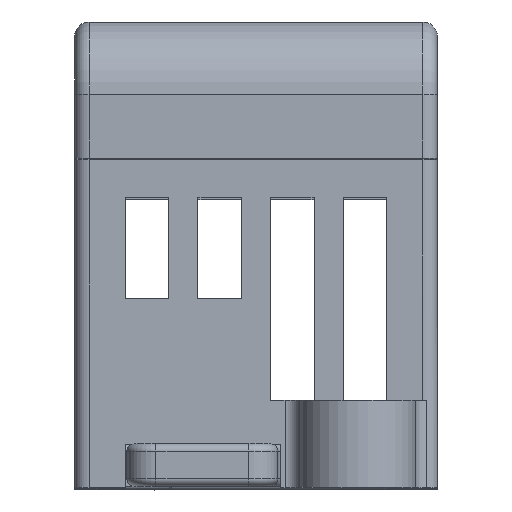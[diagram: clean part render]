
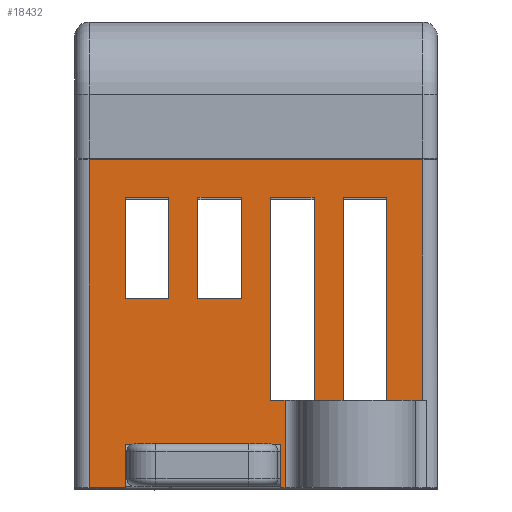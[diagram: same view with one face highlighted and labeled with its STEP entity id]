
A CAD part, top view. The second image highlights one B-rep face of the part: STEP entity #18432.
In plain terms, the highlighted planar face has unit normal (0, 0, 1).
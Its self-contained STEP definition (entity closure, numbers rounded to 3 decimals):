
#9951=DIRECTION('',(1.,0.,0.));
#9952=VECTOR('',#9951,2.5);
#9953=CARTESIAN_POINT('',(-11.5,0.,45.));
#9954=LINE('',#9953,#9952);
#10140=DIRECTION('',(0.,-1.,0.));
#10141=VECTOR('',#10140,14.);
#10142=CARTESIAN_POINT('',(1.,20.,45.));
#10143=LINE('',#10142,#10141);
#10147=DIRECTION('',(1.,0.,0.));
#10148=VECTOR('',#10147,1.);
#10149=CARTESIAN_POINT('',(1.,6.,45.));
#10150=LINE('',#10149,#10148);
#10154=DIRECTION('',(0.,-1.,0.));
#10155=VECTOR('',#10154,6.);
#10156=CARTESIAN_POINT('',(2.,6.,45.));
#10157=LINE('',#10156,#10155);
#10161=DIRECTION('',(-1.,0.,0.));
#10162=VECTOR('',#10161,0.3);
#10163=CARTESIAN_POINT('',(2.,0.,45.));
#10164=LINE('',#10163,#10162);
#10168=DIRECTION('',(1.,0.,0.));
#10169=VECTOR('',#10168,10.7);
#10170=CARTESIAN_POINT('',(-9.,3.,45.));
#10171=LINE('',#10170,#10169);
#10175=DIRECTION('',(0.,1.,0.));
#10176=VECTOR('',#10175,3.);
#10177=CARTESIAN_POINT('',(-9.,0.,45.));
#10178=LINE('',#10177,#10176);
#10182=DIRECTION('',(1.,0.,0.));
#10183=VECTOR('',#10182,23.);
#10184=CARTESIAN_POINT('',(-11.5,22.6,45.));
#10185=LINE('',#10184,#10183);
#10189=DIRECTION('',(0.,1.,0.));
#10190=VECTOR('',#10189,14.);
#10191=CARTESIAN_POINT('',(9.,6.,45.));
#10192=LINE('',#10191,#10190);
#10196=DIRECTION('',(-1.,0.,0.));
#10197=VECTOR('',#10196,3.);
#10198=CARTESIAN_POINT('',(9.,20.,45.));
#10199=LINE('',#10198,#10197);
#10203=DIRECTION('',(0.,-1.,0.));
#10204=VECTOR('',#10203,14.);
#10205=CARTESIAN_POINT('',(6.,20.,45.));
#10206=LINE('',#10205,#10204);
#10210=DIRECTION('',(0.,1.,0.));
#10211=VECTOR('',#10210,14.);
#10212=CARTESIAN_POINT('',(4.,6.,45.));
#10213=LINE('',#10212,#10211);
#10217=DIRECTION('',(-1.,0.,0.));
#10218=VECTOR('',#10217,3.);
#10219=CARTESIAN_POINT('',(4.,20.,45.));
#10220=LINE('',#10219,#10218);
#10224=DIRECTION('',(-1.,0.,0.));
#10225=VECTOR('',#10224,3.);
#10226=CARTESIAN_POINT('',(-1.,20.,45.));
#10227=LINE('',#10226,#10225);
#10231=DIRECTION('',(0.,-1.,0.));
#10232=VECTOR('',#10231,7.);
#10233=CARTESIAN_POINT('',(-4.,20.,45.));
#10234=LINE('',#10233,#10232);
#10238=DIRECTION('',(1.,0.,0.));
#10239=VECTOR('',#10238,3.);
#10240=CARTESIAN_POINT('',(-4.,13.,45.));
#10241=LINE('',#10240,#10239);
#10245=DIRECTION('',(0.,1.,0.));
#10246=VECTOR('',#10245,7.);
#10247=CARTESIAN_POINT('',(-1.,13.,45.));
#10248=LINE('',#10247,#10246);
#10252=DIRECTION('',(-1.,0.,0.));
#10253=VECTOR('',#10252,3.);
#10254=CARTESIAN_POINT('',(-6.,20.,45.));
#10255=LINE('',#10254,#10253);
#10259=DIRECTION('',(0.,-1.,0.));
#10260=VECTOR('',#10259,7.);
#10261=CARTESIAN_POINT('',(-9.,20.,45.));
#10262=LINE('',#10261,#10260);
#10266=DIRECTION('',(1.,0.,0.));
#10267=VECTOR('',#10266,3.);
#10268=CARTESIAN_POINT('',(-9.,13.,45.));
#10269=LINE('',#10268,#10267);
#10273=DIRECTION('',(0.,1.,0.));
#10274=VECTOR('',#10273,7.);
#10275=CARTESIAN_POINT('',(-6.,13.,45.));
#10276=LINE('',#10275,#10274);
#10397=DIRECTION('',(1.,0.,0.));
#10398=VECTOR('',#10397,2.);
#10399=CARTESIAN_POINT('',(4.,6.,45.));
#10400=LINE('',#10399,#10398);
#10411=DIRECTION('',(1.,0.,0.));
#10412=VECTOR('',#10411,2.5);
#10413=CARTESIAN_POINT('',(9.,6.,45.));
#10414=LINE('',#10413,#10412);
#15108=DIRECTION('',(0.,1.,0.));
#15109=VECTOR('',#15108,3.);
#15110=CARTESIAN_POINT('',(1.7,0.,45.));
#15111=LINE('',#15110,#15109);
#16627=DIRECTION('',(0.,-1.,0.));
#16628=VECTOR('',#16627,16.6);
#16629=CARTESIAN_POINT('',(11.5,22.6,45.));
#16630=LINE('',#16629,#16628);
#16904=DIRECTION('',(0.,-1.,0.));
#16905=VECTOR('',#16904,22.6);
#16906=CARTESIAN_POINT('',(-11.5,22.6,45.));
#16907=LINE('',#16906,#16905);
#16962=CARTESIAN_POINT('',(-11.5,0.,45.));
#16964=VERTEX_POINT('',#16962);
#16982=CARTESIAN_POINT('',(-9.,0.,45.));
#16983=VERTEX_POINT('',#16982);
#17254=CARTESIAN_POINT('',(-11.5,22.6,45.));
#17255=CARTESIAN_POINT('',(11.5,22.6,45.));
#17256=VERTEX_POINT('',#17254);
#17257=VERTEX_POINT('',#17255);
#17753=CARTESIAN_POINT('',(11.5,6.,45.));
#17754=VERTEX_POINT('',#17753);
#17757=CARTESIAN_POINT('',(2.,0.,45.));
#17758=VERTEX_POINT('',#17757);
#17763=CARTESIAN_POINT('',(1.7,0.,45.));
#17764=CARTESIAN_POINT('',(1.7,3.,45.));
#17765=VERTEX_POINT('',#17763);
#17766=VERTEX_POINT('',#17764);
#17767=CARTESIAN_POINT('',(-9.,3.,45.));
#17768=VERTEX_POINT('',#17767);
#18050=CARTESIAN_POINT('',(1.,20.,45.));
#18051=CARTESIAN_POINT('',(1.,6.,45.));
#18052=VERTEX_POINT('',#18050);
#18053=VERTEX_POINT('',#18051);
#18054=CARTESIAN_POINT('',(2.,6.,45.));
#18055=VERTEX_POINT('',#18054);
#18056=CARTESIAN_POINT('',(4.,6.,45.));
#18057=CARTESIAN_POINT('',(4.,20.,45.));
#18058=VERTEX_POINT('',#18056);
#18059=VERTEX_POINT('',#18057);
#18060=CARTESIAN_POINT('',(6.,20.,45.));
#18061=CARTESIAN_POINT('',(6.,6.,45.));
#18062=VERTEX_POINT('',#18060);
#18063=VERTEX_POINT('',#18061);
#18064=CARTESIAN_POINT('',(9.,6.,45.));
#18065=CARTESIAN_POINT('',(9.,20.,45.));
#18066=VERTEX_POINT('',#18064);
#18067=VERTEX_POINT('',#18065);
#18068=CARTESIAN_POINT('',(-1.,20.,45.));
#18069=CARTESIAN_POINT('',(-4.,20.,45.));
#18070=VERTEX_POINT('',#18068);
#18071=VERTEX_POINT('',#18069);
#18072=CARTESIAN_POINT('',(-4.,13.,45.));
#18073=VERTEX_POINT('',#18072);
#18074=CARTESIAN_POINT('',(-1.,13.,45.));
#18075=VERTEX_POINT('',#18074);
#18076=CARTESIAN_POINT('',(-6.,20.,45.));
#18077=CARTESIAN_POINT('',(-9.,20.,45.));
#18078=VERTEX_POINT('',#18076);
#18079=VERTEX_POINT('',#18077);
#18080=CARTESIAN_POINT('',(-9.,13.,45.));
#18081=VERTEX_POINT('',#18080);
#18082=CARTESIAN_POINT('',(-6.,13.,45.));
#18083=VERTEX_POINT('',#18082);
#18372=CARTESIAN_POINT('',(-12.5,0.,45.));
#18373=DIRECTION('',(0.,0.,1.));
#18374=DIRECTION('',(1.,0.,0.));
#18375=AXIS2_PLACEMENT_3D('',#18372,#18373,#18374);
#18376=PLANE('',#18375);
#18378=ORIENTED_EDGE('',*,*,#18377,.T.);
#18380=ORIENTED_EDGE('',*,*,#18379,.T.);
#18382=ORIENTED_EDGE('',*,*,#18381,.T.);
#18383=ORIENTED_EDGE('',*,*,#18289,.T.);
#18385=ORIENTED_EDGE('',*,*,#18384,.T.);
#18387=ORIENTED_EDGE('',*,*,#18386,.F.);
#18388=ORIENTED_EDGE('',*,*,#18361,.F.);
#18389=ORIENTED_EDGE('',*,*,#18203,.F.);
#18391=ORIENTED_EDGE('',*,*,#18390,.F.);
#18393=ORIENTED_EDGE('',*,*,#18392,.T.);
#18395=ORIENTED_EDGE('',*,*,#18394,.T.);
#18397=ORIENTED_EDGE('',*,*,#18396,.F.);
#18399=ORIENTED_EDGE('',*,*,#18398,.T.);
#18401=ORIENTED_EDGE('',*,*,#18400,.T.);
#18403=ORIENTED_EDGE('',*,*,#18402,.T.);
#18405=ORIENTED_EDGE('',*,*,#18404,.F.);
#18407=ORIENTED_EDGE('',*,*,#18406,.T.);
#18409=ORIENTED_EDGE('',*,*,#18408,.T.);
#18410=EDGE_LOOP('',(#18378,#18380,#18382,#18383,#18385,#18387,#18388,#18389,
#18391,#18393,#18395,#18397,#18399,#18401,#18403,#18405,#18407,#18409));
#18411=FACE_OUTER_BOUND('',#18410,.F.);
#18413=ORIENTED_EDGE('',*,*,#18412,.T.);
#18415=ORIENTED_EDGE('',*,*,#18414,.T.);
#18417=ORIENTED_EDGE('',*,*,#18416,.T.);
#18419=ORIENTED_EDGE('',*,*,#18418,.T.);
#18420=EDGE_LOOP('',(#18413,#18415,#18417,#18419));
#18421=FACE_BOUND('',#18420,.F.);
#18423=ORIENTED_EDGE('',*,*,#18422,.T.);
#18425=ORIENTED_EDGE('',*,*,#18424,.T.);
#18427=ORIENTED_EDGE('',*,*,#18426,.T.);
#18429=ORIENTED_EDGE('',*,*,#18428,.T.);
#18430=EDGE_LOOP('',(#18423,#18425,#18427,#18429));
#18431=FACE_BOUND('',#18430,.F.);
#18432=ADVANCED_FACE('',(#18411,#18421,#18431),#18376,.T.);
#18203=EDGE_CURVE('',#16964,#16983,#9954,.T.);
#18289=EDGE_CURVE('',#17758,#17765,#10164,.T.);
#18361=EDGE_CURVE('',#16983,#17768,#10178,.T.);
#18377=EDGE_CURVE('',#18052,#18053,#10143,.T.);
#18379=EDGE_CURVE('',#18053,#18055,#10150,.T.);
#18381=EDGE_CURVE('',#18055,#17758,#10157,.T.);
#18384=EDGE_CURVE('',#17765,#17766,#15111,.T.);
#18386=EDGE_CURVE('',#17768,#17766,#10171,.T.);
#18390=EDGE_CURVE('',#17256,#16964,#16907,.T.);
#18392=EDGE_CURVE('',#17256,#17257,#10185,.T.);
#18394=EDGE_CURVE('',#17257,#17754,#16630,.T.);
#18396=EDGE_CURVE('',#18066,#17754,#10414,.T.);
#18398=EDGE_CURVE('',#18066,#18067,#10192,.T.);
#18400=EDGE_CURVE('',#18067,#18062,#10199,.T.);
#18402=EDGE_CURVE('',#18062,#18063,#10206,.T.);
#18404=EDGE_CURVE('',#18058,#18063,#10400,.T.);
#18406=EDGE_CURVE('',#18058,#18059,#10213,.T.);
#18408=EDGE_CURVE('',#18059,#18052,#10220,.T.);
#18412=EDGE_CURVE('',#18070,#18071,#10227,.T.);
#18414=EDGE_CURVE('',#18071,#18073,#10234,.T.);
#18416=EDGE_CURVE('',#18073,#18075,#10241,.T.);
#18418=EDGE_CURVE('',#18075,#18070,#10248,.T.);
#18422=EDGE_CURVE('',#18078,#18079,#10255,.T.);
#18424=EDGE_CURVE('',#18079,#18081,#10262,.T.);
#18426=EDGE_CURVE('',#18081,#18083,#10269,.T.);
#18428=EDGE_CURVE('',#18083,#18078,#10276,.T.);
